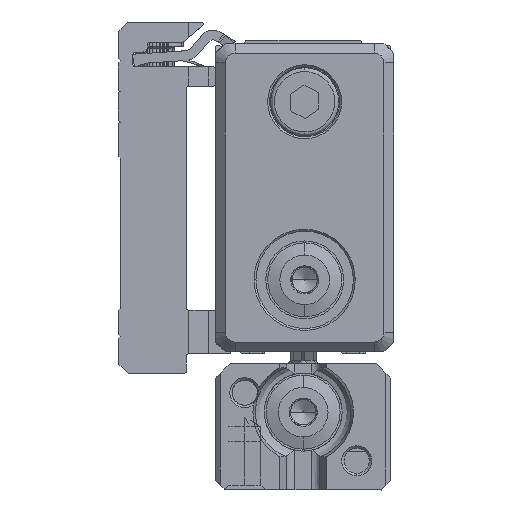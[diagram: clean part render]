
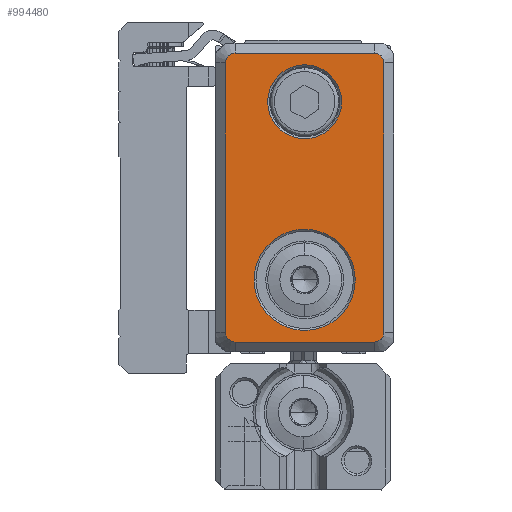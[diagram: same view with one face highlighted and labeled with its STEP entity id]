
A CAD part, left-side view. The second image highlights one B-rep face of the part: STEP entity #994480.
In plain terms, the highlighted planar face has unit normal (-1, 0, 0).
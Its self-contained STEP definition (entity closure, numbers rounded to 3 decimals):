
#951790=CARTESIAN_POINT('',(-877.138,43.35,
-56.983));
#951800=VERTEX_POINT('',#951790);
#951830=CARTESIAN_POINT('',(-877.138,38.15,
-56.983));
#951840=DIRECTION('',(1.,0.,0.));
#951850=DIRECTION('',(0.,-1.,0.));
#951860=AXIS2_PLACEMENT_3D('',#951830,#951840,#951850);
#951870=CIRCLE('',#951860,5.2);
#951880=CARTESIAN_POINT('',(-877.138,32.95,
-56.983));
#951890=VERTEX_POINT('',#951880);
#951900=EDGE_CURVE('',#951800,#951890,#951870,.T.);
#955390=CARTESIAN_POINT('',(-877.138,31.,
-50.583));
#955400=VERTEX_POINT('',#955390);
#956210=CARTESIAN_POINT('',(-877.138,30.,
-51.583));
#956220=VERTEX_POINT('',#956210);
#956250=CARTESIAN_POINT('',(-877.138,31.,
-51.583));
#956260=DIRECTION('',(1.,0.,0.));
#956270=DIRECTION('',(0.,1.,0.));
#956280=AXIS2_PLACEMENT_3D('',#956250,#956260,#956270);
#956290=CIRCLE('',#956280,1.);
#956300=EDGE_CURVE('',#955400,#956220,#956290,.T.);
#968790=CARTESIAN_POINT('',(-877.138,41.95,
-75.283));
#968800=VERTEX_POINT('',#968790);
#968960=CARTESIAN_POINT('',(-877.138,34.35,
-75.283));
#968970=VERTEX_POINT('',#968960);
#969000=CARTESIAN_POINT('',(-877.138,38.15,
-75.283));
#969010=DIRECTION('',(-1.,0.,0.));
#969020=DIRECTION('',(0.,1.,0.));
#969030=AXIS2_PLACEMENT_3D('',#969000,#969010,#969020);
#969040=CIRCLE('',#969030,3.8);
#969050=EDGE_CURVE('',#968800,#968970,#969040,.T.);
#980480=CARTESIAN_POINT('',(-877.138,45.3,
-50.583));
#980490=VERTEX_POINT('',#980480);
#980540=CARTESIAN_POINT('',(-877.138,46.75,
-50.583));
#980550=DIRECTION('',(0.,1.,0.));
#980560=VECTOR('',#980550,1.);
#980570=LINE('',#980540,#980560);
#980580=EDGE_CURVE('',#955400,#980490,#980570,.T.);
#980740=CARTESIAN_POINT('',(-877.138,46.3,
-51.583));
#980750=VERTEX_POINT('',#980740);
#981280=CARTESIAN_POINT('',(-877.138,45.3,
-51.583));
#981290=DIRECTION('',(1.,0.,0.));
#981300=DIRECTION('',(0.,1.,0.));
#981310=AXIS2_PLACEMENT_3D('',#981280,#981290,#981300);
#981320=CIRCLE('',#981310,1.);
#981330=EDGE_CURVE('',#980750,#980490,#981320,.T.);
#981540=CARTESIAN_POINT('',(-877.138,46.3,
-79.283));
#981550=VERTEX_POINT('',#981540);
#981670=CARTESIAN_POINT('',(-877.138,46.3,
-49.133));
#981680=DIRECTION('',(0.,0.,-1.));
#981690=VECTOR('',#981680,1.);
#981700=LINE('',#981670,#981690);
#981710=EDGE_CURVE('',#980750,#981550,#981700,.T.);
#981840=CARTESIAN_POINT('',(-877.138,45.3,
-79.283));
#981850=DIRECTION('',(1.,0.,0.));
#981860=DIRECTION('',(0.,1.,0.));
#981870=AXIS2_PLACEMENT_3D('',#981840,#981850,#981860);
#981880=CIRCLE('',#981870,1.);
#981890=CARTESIAN_POINT('',(-877.138,45.3,
-80.283));
#981900=VERTEX_POINT('',#981890);
#981910=EDGE_CURVE('',#981900,#981550,#981880,.T.);
#984230=CARTESIAN_POINT('',(-877.138,31.,
-80.283));
#984240=VERTEX_POINT('',#984230);
#984290=CARTESIAN_POINT('',(-877.138,46.75,
-80.283));
#984300=DIRECTION('',(0.,-1.,0.));
#984310=VECTOR('',#984300,1.);
#984320=LINE('',#984290,#984310);
#984330=EDGE_CURVE('',#981900,#984240,#984320,.T.);
#984690=CARTESIAN_POINT('',(-877.138,31.,
-79.283));
#984700=DIRECTION('',(1.,0.,0.));
#984710=DIRECTION('',(0.,1.,0.));
#984720=AXIS2_PLACEMENT_3D('',#984690,#984700,#984710);
#984730=CIRCLE('',#984720,1.);
#984740=CARTESIAN_POINT('',(-877.138,30.,
-79.283));
#984750=VERTEX_POINT('',#984740);
#984760=EDGE_CURVE('',#984750,#984240,#984730,.T.);
#985030=CARTESIAN_POINT('',(-877.138,30.,
-49.133));
#985040=DIRECTION('',(0.,0.,1.));
#985050=VECTOR('',#985040,1.);
#985060=LINE('',#985030,#985050);
#985070=EDGE_CURVE('',#984750,#956220,#985060,.T.);
#994230=CARTESIAN_POINT('',(-877.138,38.15,
-65.583));
#994240=DIRECTION('',(1.,0.,0.));
#994250=DIRECTION('',(0.,1.,0.));
#994260=AXIS2_PLACEMENT_3D('',#994230,#994240,#994250);
#994270=PLANE('',#994260);
#994280=EDGE_CURVE('',#951890,#951800,#951870,.T.);
#994290=ORIENTED_EDGE('',*,*,#994280,.T.);
#994300=ORIENTED_EDGE('',*,*,#951900,.T.);
#994310=EDGE_LOOP('',(#994300,#994290));
#994320=FACE_BOUND('',#994310,.T.);
#994330=EDGE_CURVE('',#968970,#968800,#969040,.T.);
#994340=ORIENTED_EDGE('',*,*,#994330,.F.);
#994350=ORIENTED_EDGE('',*,*,#969050,.F.);
#994360=EDGE_LOOP('',(#994350,#994340));
#994370=FACE_BOUND('',#994360,.T.);
#994380=ORIENTED_EDGE('',*,*,#984330,.T.);
#994390=ORIENTED_EDGE('',*,*,#981910,.F.);
#994400=ORIENTED_EDGE('',*,*,#981710,.T.);
#994410=ORIENTED_EDGE('',*,*,#981330,.F.);
#994420=ORIENTED_EDGE('',*,*,#980580,.T.);
#994430=ORIENTED_EDGE('',*,*,#956300,.F.);
#994440=ORIENTED_EDGE('',*,*,#985070,.T.);
#994450=ORIENTED_EDGE('',*,*,#984760,.F.);
#994460=EDGE_LOOP('',(#994450,#994440,#994430,#994420,#994410,#994400,
#994390,#994380));
#994470=FACE_OUTER_BOUND('',#994460,.T.);
#994480=ADVANCED_FACE('',(#994320,#994370,#994470),#994270,.F.);
